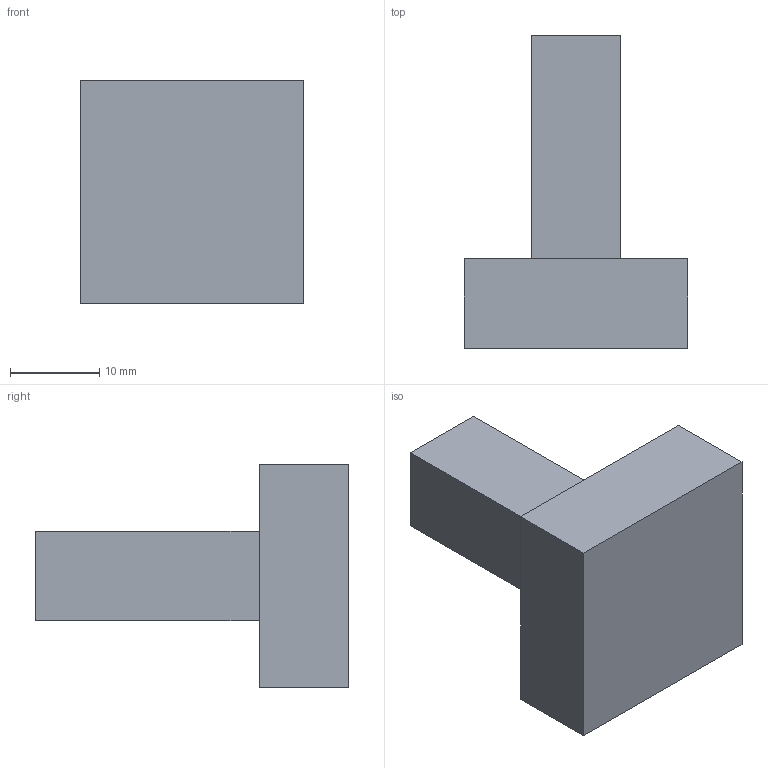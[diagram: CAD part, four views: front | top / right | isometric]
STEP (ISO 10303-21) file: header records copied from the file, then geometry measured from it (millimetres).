
FILE_DESCRIPTION( ( '' ), '1' );
FILE_NAME( 'C:/Documents and Settings/Nikhil/Desktop/Nik/Done/9071869.stp', '2013-10-23T10:57:35', ( '' ), ( '' ), ' ', ' ', ' ' );
FILE_SCHEMA( ( 'automotive_design' ) );
Length unit declared in the file: millimetre
Products named in the file (1): 1
Bounding box: 25 x 35 x 25 mm (x, y, z)
Volume: 8649.5 mm3; surface area: 3350.5 mm2
Topology: 1 solids, 1 shells, 14 faces, 30 edges, 20 vertices
Faces by surface type: plane 12, cylinder 2
Entity records: 764 total; most frequent: STYLED_ITEM 65, PRESENTATION_STYLE_ASSIGNMENT 65, CARTESIAN_POINT 65, COLOUR_RGB 65, DIRECTION 64, ORIENTED_EDGE 60, EDGE_CURVE 30, CURVE_STYLE 30
